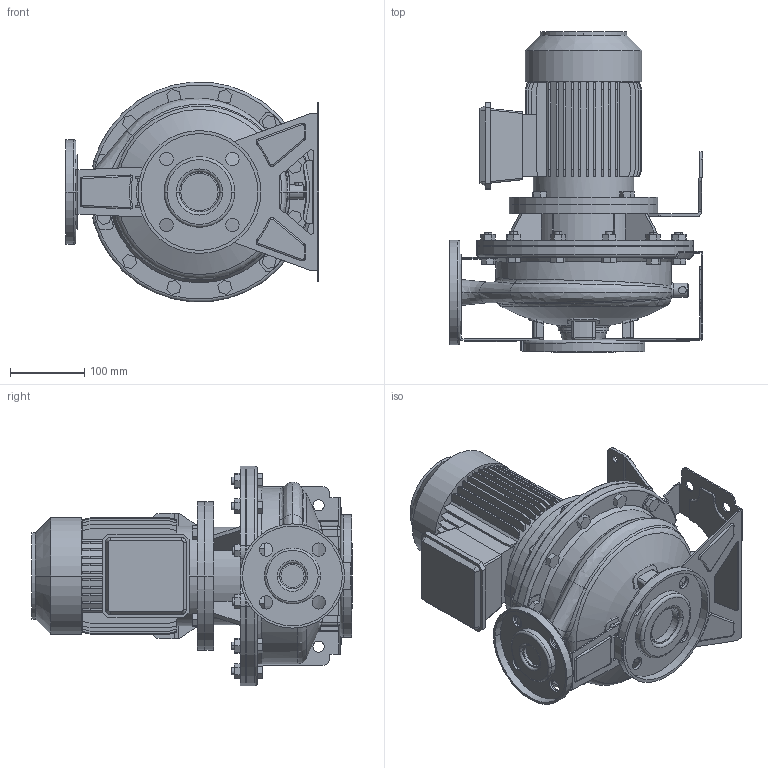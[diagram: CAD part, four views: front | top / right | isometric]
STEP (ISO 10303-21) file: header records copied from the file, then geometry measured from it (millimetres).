
FILE_DESCRIPTION((''),'2;1');
FILE_NAME('3S4_32-200_0_75_IE3_ASM','2016-09-23T',('rosa'),('"Ebara Pumps Europe +39.444.706811"'),'PRO/ENGINEER BY PARAMETRIC TECHNOLOGY CORPORATION, 2012130','PRO/ENGINEER BY PARAMETRIC TECHNOLOGY CORPORATION, 2012130','');
FILE_SCHEMA(('AUTOMOTIVE_DESIGN { 1 0 10303 214 1 1 1 1 }'));
Length unit declared in the file: millimetre
Products named in the file (11): MOTORE_80_0_75_KW_4POLI_B5; SUPPORTO_3S_230_80; SOSTEGNO_3S_72020; CORPO_32-200_AF0; ASP_32-200; FLANGIA_DIN_50; MAND_32-200; FLANGIA_DIN_32; BASE_3M_32-200; CORPO_SALDATO_32-200_ASM; 3S4_32-200_0_75_IE3_ASM
Assembly tree (10 placements, depth 3):
  3S4_32-200_0_75_IE3_ASM
    MOTORE_80_0_75_KW_4POLI_B5
    SUPPORTO_3S_230_80
    SOSTEGNO_3S_72020
    CORPO_SALDATO_32-200_ASM
      CORPO_32-200_AF0
      ASP_32-200
      FLANGIA_DIN_50
      MAND_32-200
      FLANGIA_DIN_32
      BASE_3M_32-200
Bounding box: 340 x 430 x 295.13 mm (x, y, z)
Volume: 10320962.9 mm3; surface area: 1145221.3 mm2
Topology: 12 solids, 12 shells, 1129 faces, 2895 edges, 1903 vertices
Faces by surface type: plane 704, cylinder 308, torus 54, bspline 33, cone 24, sphere 6
Entity records: 47435 total; most frequent: CARTESIAN_POINT 8772, DIRECTION 5913, ORIENTED_EDGE 5790, EDGE_CURVE 2895, PRESENTATION_STYLE_ASSIGNMENT 2766, STYLED_ITEM 2766, CURVE_STYLE 2755, AXIS2_PLACEMENT_3D 1999
